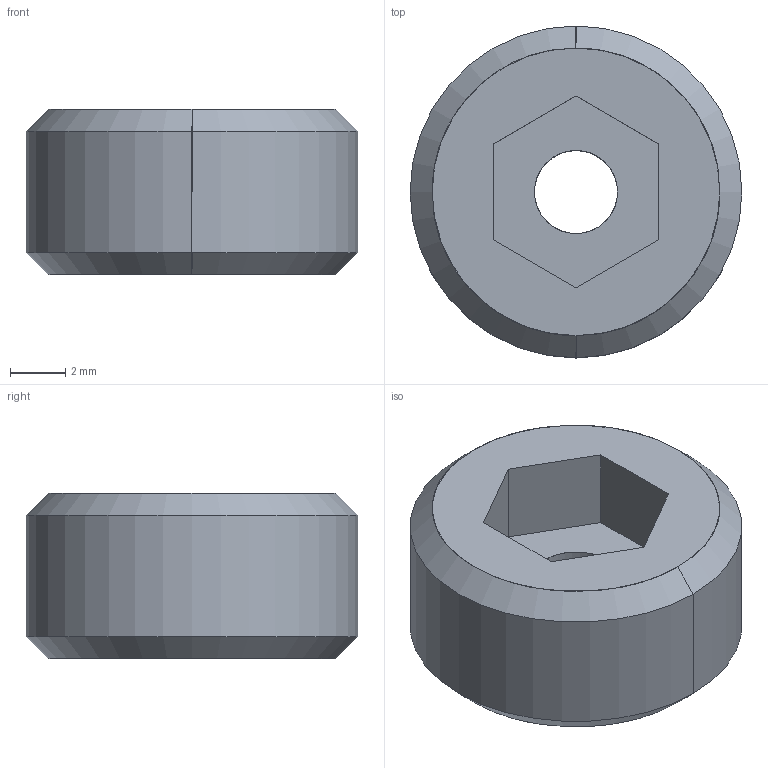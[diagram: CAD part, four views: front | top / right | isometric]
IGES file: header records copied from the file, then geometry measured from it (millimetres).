
Global section: file name: E:\UnigraphicsGraphicData\MISUMI_PRESS-PARTS\IGES\3d_mswsh12-6_00469_r00.igs; native system: NX V5.0; preprocessor: UGS NX IGES V5.0; author: MISUMI; date: 20110105.161526; units: millimetre
Bounding box: 12 x 12 x 6 mm (x, y, z)
Surface area: 492.4 mm2 (no closed solid volume)
Topology: 0 solids, 0 shells, 17 faces, 100 edges, 100 vertices
Faces by surface type: bspline 17
